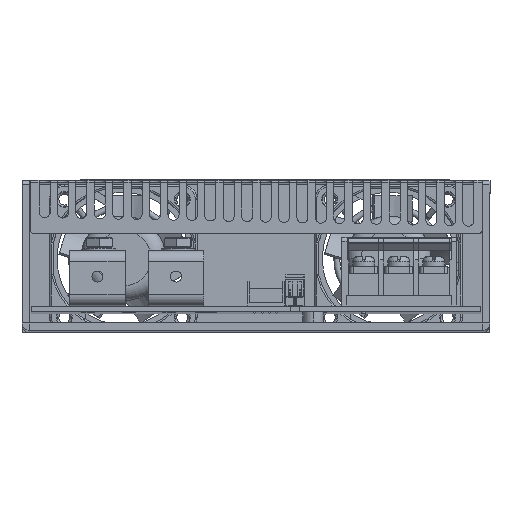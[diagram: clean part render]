
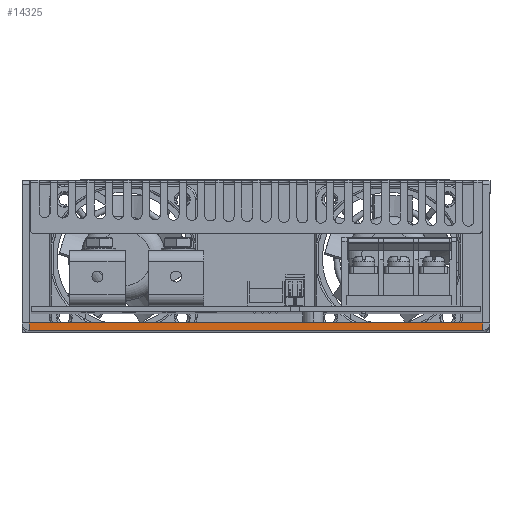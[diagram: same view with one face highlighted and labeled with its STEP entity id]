
A CAD part, top view. The second image highlights one B-rep face of the part: STEP entity #14325.
In plain terms, the highlighted planar face has unit normal (0, 0, 1).
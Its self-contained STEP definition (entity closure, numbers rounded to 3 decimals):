
#867 = ORIENTED_EDGE ( 'NONE', *, *, #102260, .F. ) ;
#869 = ORIENTED_EDGE ( 'NONE', *, *, #102309, .T. ) ;
#871 = ORIENTED_EDGE ( 'NONE', *, *, #102346, .F. ) ;
#872 = ORIENTED_EDGE ( 'NONE', *, *, #102261, .T. ) ;
#4717 = EDGE_LOOP ( 'NONE', ( #872, #871, #867, #869 ) ) ;
#5340 = VERTEX_POINT ( 'NONE', #20734 ) ;
#5341 = VERTEX_POINT ( 'NONE', #20735 ) ;
#14325 = ADVANCED_FACE ( 'NONE', ( #53457 ), #55678, .F. ) ;
#17178 = VERTEX_POINT ( 'NONE', #82462 ) ;
#17179 = VERTEX_POINT ( 'NONE', #82463 ) ;
#20734 = CARTESIAN_POINT ( 'NONE',  ( 61.5, 2., 147.5 ) ) ;
#20735 = CARTESIAN_POINT ( 'NONE',  ( -61.5, 2., 147.5 ) ) ;
#53457 = FACE_OUTER_BOUND ( 'NONE', #4717, .T. ) ;
#53473 = AXIS2_PLACEMENT_3D ( 'NONE', #55679, #55680, #55681 ) ;
#55678 = PLANE ( 'NONE',  #53473 ) ;
#55679 = CARTESIAN_POINT ( 'NONE',  ( 63.5, 2., 147.5 ) ) ;
#55680 = DIRECTION ( 'NONE',  ( 0., 0., -1. ) ) ;
#55681 = DIRECTION ( 'NONE',  ( -1., 0., 0. ) ) ;
#70294 = VECTOR ( 'NONE', #77994, 1000. ) ;
#70296 = VECTOR ( 'NONE', #77997, 1000. ) ;
#70346 = VECTOR ( 'NONE', #78141, 1000. ) ;
#70382 = VECTOR ( 'NONE', #78252, 1000. ) ;
#77992 = LINE ( 'NONE', #77993, #70294 ) ;
#77993 = CARTESIAN_POINT ( 'NONE',  ( -61.5, 0., 147.5 ) ) ;
#77994 = DIRECTION ( 'NONE',  ( 0., 1., 0. ) ) ;
#77995 = LINE ( 'NONE', #77996, #70296 ) ;
#77996 = CARTESIAN_POINT ( 'NONE',  ( 61.5, 0., 147.5 ) ) ;
#77997 = DIRECTION ( 'NONE',  ( 0., 1., 0. ) ) ;
#78139 = LINE ( 'NONE', #78140, #70346 ) ;
#78140 = CARTESIAN_POINT ( 'NONE',  ( 63.5, 0., 147.5 ) ) ;
#78141 = DIRECTION ( 'NONE',  ( 1., 0., 0. ) ) ;
#78250 = LINE ( 'NONE', #78251, #70382 ) ;
#78251 = CARTESIAN_POINT ( 'NONE',  ( 63.5, 2., 147.5 ) ) ;
#78252 = DIRECTION ( 'NONE',  ( 1., 0., 0. ) ) ;
#82462 = CARTESIAN_POINT ( 'NONE',  ( 61.5, 0., 147.5 ) ) ;
#82463 = CARTESIAN_POINT ( 'NONE',  ( -61.5, 0., 147.5 ) ) ;
#102260 = EDGE_CURVE ( 'NONE', #17179, #5341, #77992, .T. ) ;
#102261 = EDGE_CURVE ( 'NONE', #17178, #5340, #77995, .T. ) ;
#102309 = EDGE_CURVE ( 'NONE', #17179, #17178, #78139, .T. ) ;
#102346 = EDGE_CURVE ( 'NONE', #5341, #5340, #78250, .T. ) ;
